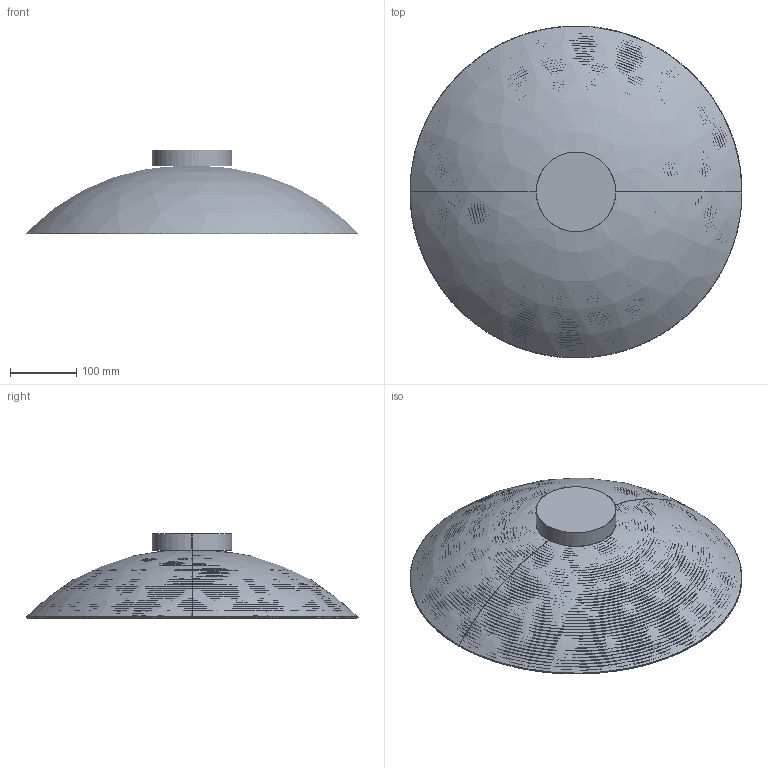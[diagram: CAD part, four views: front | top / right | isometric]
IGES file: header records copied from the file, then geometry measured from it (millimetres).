
Start section: SolidWorks IGES file using analytic representation for surfaces
Global section: file name: C:\Users\Agustin\Desktop\ENERO 2025\DANA\DANA_A1098_50.IGS; native system: SolidWorks 2018; preprocessor: SolidWorks 2018; author: Agustin; date: 250305.173109; units: millimetre
Bounding box: 500.55 x 500.55 x 126.94 mm (x, y, z)
Surface area: 663407.8 mm2 (no closed solid volume)
Topology: 0 solids, 0 shells, 335 faces, 1472 edges, 1466 vertices
Faces by surface type: bspline 325, revolution 10
